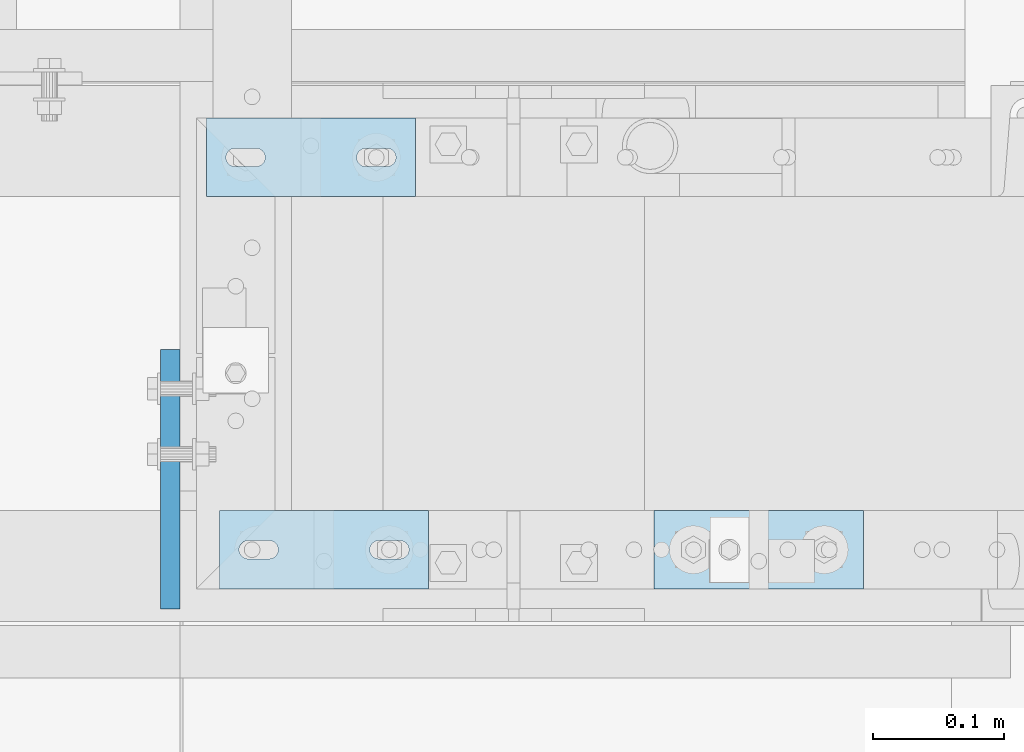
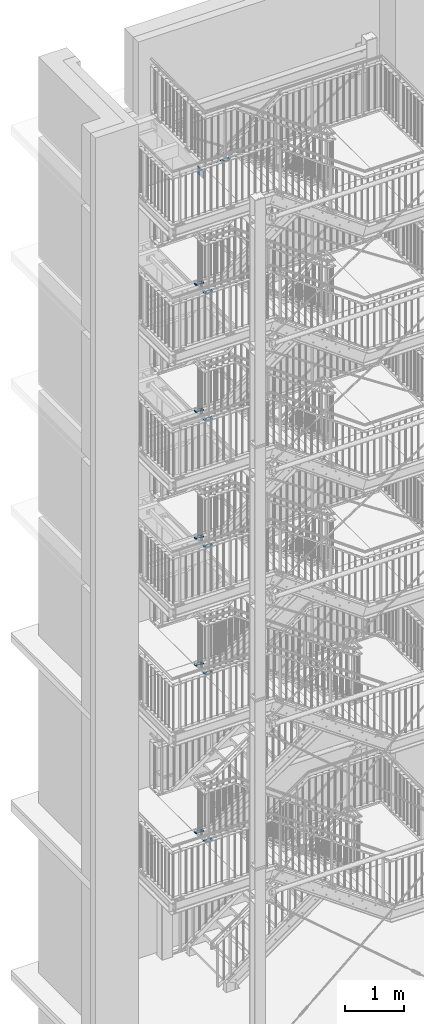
# One storey, part 163 of 831: 12 plates, 26 openings.
"""IFC2X3 building model written with IfcOpenShell, lengths in millimetres."""

from ifc_helpers import new_model, entity, si_unit, converted_unit, point, frame, frame_2d, origin, origin_with_axes, place, context, project, spatial, polyline, circle_curve, line_curve, trimmed, segment, composite_curve, circle, outline, extrude, material, layer, layer_set, element, save


model = new_model("IFC2X3")

# Units and contexts
model_context = context("Model", 3, precision=1e-09, world=origin_with_axes())
ifc_project = project(units=[si_unit("LENGTHUNIT", "METRE", prefix="MILLI"), si_unit("AREAUNIT", "SQUARE_METRE"), si_unit("VOLUMEUNIT", "CUBIC_METRE"), converted_unit("PLANEANGLEUNIT", "DEGREE", entity("IfcPlaneAngleMeasure", 0.01745329), si_unit("PLANEANGLEUNIT", "RADIAN"), dimensions=[0, 0, 0, 0, 0, 0, 0])], contexts=[model_context])

# Site, building, storey
site_placement = place(None, origin_with_axes())
site = spatial("IfcSite", under=ifc_project, at=site_placement, Name="Site", CompositionType="ELEMENT")
building_placement = place(site_placement, origin_with_axes())
building = spatial("IfcBuilding", under=site, at=building_placement, Name="Struktur 1", CompositionType="ELEMENT")
storey_placement = place(building_placement, origin_with_axes())
storey = spatial("IfcBuildingStorey", under=building, at=storey_placement, Name="Default Storey", CompositionType="ELEMENT", Elevation=0.0)

# Plate, openings
ifc_material = material(Name="S235JR")
ifc_layer_1 = layer(ifc_material, 15.0)
ifc_layer_set_1 = layer_set([ifc_layer_1], Name="S235JR")
plate_1_placement = place(None, frame((4601.713402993, 5845.536971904, 17714.000000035), z_axis=(1.0, 0.0, 0.0), x_axis=(0.0, 1.0, 0.0)))
plate_1 = element("IfcPlate", 1, at=plate_1_placement, inside=storey, material=ifc_layer_set_1, Name="-", ObjectType="-", context=model_context, shape_type="SweptSolid", body=[
    extrude(outline(polyline([(-99.3, -75.0), (99.3, -75.0), (99.3, 75.0), (-99.3, 75.0), (-99.3, -75.0)])), origin_with_axes(), (0.0, 0.0, -1.0), 15.0),
])
opening_1_placement = place(plate_1_placement, frame((62.299, 50.000000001, 0.5), z_axis=(0.0, 0.0, 1.0), x_axis=(1.0, 0.0, 0.0)))
element("IfcOpeningElement", 2, at=opening_1_placement, cuts=plate_1, ObjectType="Opening", context=model_context, shape_type="SweptSolid", body=[
    extrude(circle(Radius=7.001, at=frame_2d((7.001, 0.0), x_axis=(1.0, 0.0))), origin(), (0.0, 0.0, -1.0), 16.0),
])
opening_2_placement = place(plate_1_placement, frame((12.299, 50.000000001, 0.5), z_axis=(0.0, 0.0, 1.0), x_axis=(1.0, 0.0, 0.0)))
element("IfcOpeningElement", 3, at=opening_2_placement, cuts=plate_1, ObjectType="Opening", context=model_context, shape_type="SweptSolid", body=[
    extrude(circle(Radius=7.001, at=frame_2d((7.001, 0.0), x_axis=(1.0, 0.0))), origin(), (0.0, 0.0, -1.0), 16.0),
])
opening_3_placement = place(plate_1_placement, frame((62.299, -49.999999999, 0.5), z_axis=(0.0, 0.0, 1.0), x_axis=(1.0, 0.0, 0.0)))
element("IfcOpeningElement", 4, at=opening_3_placement, cuts=plate_1, ObjectType="Opening", context=model_context, shape_type="SweptSolid", body=[
    extrude(circle(Radius=7.001, at=frame_2d((7.001, 0.0), x_axis=(1.0, 0.0))), origin(), (0.0, 0.0, -1.0), 16.0),
])
opening_4_placement = place(plate_1_placement, frame((12.299, -49.999999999, 0.5), z_axis=(0.0, 0.0, 1.0), x_axis=(1.0, 0.0, 0.0)))
element("IfcOpeningElement", 5, at=opening_4_placement, cuts=plate_1, ObjectType="Opening", context=model_context, shape_type="SweptSolid", body=[
    extrude(circle(Radius=7.001, at=frame_2d((7.001, 0.0), x_axis=(1.0, 0.0))), origin(), (0.0, 0.0, -1.0), 16.0),
])

ifc_layer_2 = layer(ifc_material, 20.0)
ifc_layer_set_2 = layer_set([ifc_layer_2], Name="S235JR")
plate_2_placement = place(None, frame((4781.713402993, 6121.736971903, 3847.0), z_axis=(0.0, 0.0, 1.0), x_axis=(-1.0, 0.0, 0.0)))
plate_2 = element("IfcPlate", 6, at=plate_2_placement, inside=storey, material=ifc_layer_set_2, Name="Plate#500", ObjectType="Plate#500", context=model_context, shape_type="SweptSolid", body=[
    extrude(outline(polyline([(0.0, 0.0), (160.0, 0.0), (160.0, 60.0), (0.0, 60.0), (0.0, 0.0)])), origin_with_axes(), (0.0, 0.0, 1.0), 20.0),
])
opening_5_placement = place(plate_2_placement, frame((38.0, 37.001, 20.5), z_axis=(0.0, 0.0, 1.0), x_axis=(-1.0, 0.0, 0.0)))
element("IfcOpeningElement", 7, at=opening_5_placement, cuts=plate_2, ObjectType="Opening", context=model_context, shape_type="SweptSolid", body=[
    extrude(outline(composite_curve([segment(trimmed(line_curve((0.0, 0.0), (1.0, 0.0), 16.0), [point((0.0, 0.0))], [point((16.0, 0.0))], True, "CARTESIAN"), True, "CONTINUOUS"), segment(trimmed(circle_curve(frame_2d((16.0, 7.001), x_axis=(1.0, 0.0)), 7.001), [point((16.0, 0.0))], [point((16.0, 14.002))], True, "CARTESIAN"), True, "CONTINUOUS"), segment(trimmed(line_curve((16.0, 14.002), (-1.0, 0.0), 16.0), [point((16.0, 14.002))], [point((0.0, 14.002))], True, "CARTESIAN"), True, "CONTINUOUS"), segment(trimmed(circle_curve(frame_2d((0.0, 7.001), x_axis=(1.0, 0.0)), 7.001), [point((0.0, 14.002))], [point((0.0, 0.0))], True, "CARTESIAN"), True, "CONTINUOUS")], self_intersect=False)), origin(), (0.0, 0.0, -1.0), 21.0),
])
opening_6_placement = place(plate_2_placement, frame((138.0, 37.001, 20.5), z_axis=(0.0, 0.0, 1.0), x_axis=(-1.0, 0.0, 0.0)))
element("IfcOpeningElement", 8, at=opening_6_placement, cuts=plate_2, ObjectType="Opening", context=model_context, shape_type="SweptSolid", body=[
    extrude(outline(composite_curve([segment(trimmed(line_curve((0.0, 0.0), (1.0, 0.0), 16.0), [point((0.0, 0.0))], [point((16.0, 0.0))], True, "CARTESIAN"), True, "CONTINUOUS"), segment(trimmed(circle_curve(frame_2d((16.0, 7.001), x_axis=(1.0, 0.0)), 7.001), [point((16.0, 0.0))], [point((16.0, 14.002))], True, "CARTESIAN"), True, "CONTINUOUS"), segment(trimmed(line_curve((16.0, 14.002), (-1.0, 0.0), 16.0), [point((16.0, 14.002))], [point((0.0, 14.002))], True, "CARTESIAN"), True, "CONTINUOUS"), segment(trimmed(circle_curve(frame_2d((0.0, 7.001), x_axis=(1.0, 0.0)), 7.001), [point((0.0, 14.002))], [point((0.0, 0.0))], True, "CARTESIAN"), True, "CONTINUOUS")], self_intersect=False)), origin(), (0.0, 0.0, -1.0), 21.0),
])

plate_3_placement = place(None, frame((4781.713402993, 6121.736971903, 7320.0), z_axis=(0.0, 0.0, 1.0), x_axis=(-1.0, 0.0, 0.0)))
plate_3 = element("IfcPlate", 9, at=plate_3_placement, inside=storey, material=ifc_layer_set_2, Name="Plate#500", ObjectType="Plate#500", context=model_context, shape_type="SweptSolid", body=[
    extrude(outline(polyline([(0.0, 0.0), (160.0, 0.0), (160.0, 60.0), (0.0, 60.0), (0.0, 0.0)])), origin_with_axes(), (0.0, 0.0, 1.0), 20.0),
])
opening_7_placement = place(plate_3_placement, frame((38.0, 37.001, 20.5), z_axis=(0.0, 0.0, 1.0), x_axis=(-1.0, 0.0, 0.0)))
element("IfcOpeningElement", 10, at=opening_7_placement, cuts=plate_3, ObjectType="Opening", context=model_context, shape_type="SweptSolid", body=[
    extrude(outline(composite_curve([segment(trimmed(line_curve((0.0, 0.0), (1.0, 0.0), 16.0), [point((0.0, 0.0))], [point((16.0, 0.0))], True, "CARTESIAN"), True, "CONTINUOUS"), segment(trimmed(circle_curve(frame_2d((16.0, 7.001), x_axis=(1.0, 0.0)), 7.001), [point((16.0, 0.0))], [point((16.0, 14.002))], True, "CARTESIAN"), True, "CONTINUOUS"), segment(trimmed(line_curve((16.0, 14.002), (-1.0, 0.0), 16.0), [point((16.0, 14.002))], [point((0.0, 14.002))], True, "CARTESIAN"), True, "CONTINUOUS"), segment(trimmed(circle_curve(frame_2d((0.0, 7.001), x_axis=(1.0, 0.0)), 7.001), [point((0.0, 14.002))], [point((0.0, 0.0))], True, "CARTESIAN"), True, "CONTINUOUS")], self_intersect=False)), origin(), (0.0, 0.0, -1.0), 21.0),
])
opening_8_placement = place(plate_3_placement, frame((138.0, 37.001, 20.5), z_axis=(0.0, 0.0, 1.0), x_axis=(-1.0, 0.0, 0.0)))
element("IfcOpeningElement", 11, at=opening_8_placement, cuts=plate_3, ObjectType="Opening", context=model_context, shape_type="SweptSolid", body=[
    extrude(outline(composite_curve([segment(trimmed(line_curve((0.0, 0.0), (1.0, 0.0), 16.0), [point((0.0, 0.0))], [point((16.0, 0.0))], True, "CARTESIAN"), True, "CONTINUOUS"), segment(trimmed(circle_curve(frame_2d((16.0, 7.001), x_axis=(1.0, 0.0)), 7.001), [point((16.0, 0.0))], [point((16.0, 14.002))], True, "CARTESIAN"), True, "CONTINUOUS"), segment(trimmed(line_curve((16.0, 14.002), (-1.0, 0.0), 16.0), [point((16.0, 14.002))], [point((0.0, 14.002))], True, "CARTESIAN"), True, "CONTINUOUS"), segment(trimmed(circle_curve(frame_2d((0.0, 7.001), x_axis=(1.0, 0.0)), 7.001), [point((0.0, 14.002))], [point((0.0, 0.0))], True, "CARTESIAN"), True, "CONTINUOUS")], self_intersect=False)), origin(), (0.0, 0.0, -1.0), 21.0),
])

plate_4_placement = place(None, frame((4781.713402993, 6121.736971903, 9952.0), z_axis=(0.0, 0.0, 1.0), x_axis=(-1.0, 0.0, 0.0)))
plate_4 = element("IfcPlate", 12, at=plate_4_placement, inside=storey, material=ifc_layer_set_2, Name="Plate#500", ObjectType="Plate#500", context=model_context, shape_type="SweptSolid", body=[
    extrude(outline(polyline([(0.0, 0.0), (160.0, 0.0), (160.0, 60.0), (0.0, 60.0), (0.0, 0.0)])), origin_with_axes(), (0.0, 0.0, 1.0), 20.0),
])
opening_9_placement = place(plate_4_placement, frame((38.0, 37.001, 20.5), z_axis=(0.0, 0.0, 1.0), x_axis=(-1.0, 0.0, 0.0)))
element("IfcOpeningElement", 13, at=opening_9_placement, cuts=plate_4, ObjectType="Opening", context=model_context, shape_type="SweptSolid", body=[
    extrude(outline(composite_curve([segment(trimmed(line_curve((0.0, 0.0), (1.0, 0.0), 16.0), [point((0.0, 0.0))], [point((16.0, 0.0))], True, "CARTESIAN"), True, "CONTINUOUS"), segment(trimmed(circle_curve(frame_2d((16.0, 7.001), x_axis=(1.0, 0.0)), 7.001), [point((16.0, 0.0))], [point((16.0, 14.002))], True, "CARTESIAN"), True, "CONTINUOUS"), segment(trimmed(line_curve((16.0, 14.002), (-1.0, 0.0), 16.0), [point((16.0, 14.002))], [point((0.0, 14.002))], True, "CARTESIAN"), True, "CONTINUOUS"), segment(trimmed(circle_curve(frame_2d((0.0, 7.001), x_axis=(1.0, 0.0)), 7.001), [point((0.0, 14.002))], [point((0.0, 0.0))], True, "CARTESIAN"), True, "CONTINUOUS")], self_intersect=False)), origin(), (0.0, 0.0, -1.0), 21.0),
])
opening_10_placement = place(plate_4_placement, frame((138.0, 37.001, 20.5), z_axis=(0.0, 0.0, 1.0), x_axis=(-1.0, 0.0, 0.0)))
element("IfcOpeningElement", 14, at=opening_10_placement, cuts=plate_4, ObjectType="Opening", context=model_context, shape_type="SweptSolid", body=[
    extrude(outline(composite_curve([segment(trimmed(line_curve((0.0, 0.0), (1.0, 0.0), 16.0), [point((0.0, 0.0))], [point((16.0, 0.0))], True, "CARTESIAN"), True, "CONTINUOUS"), segment(trimmed(circle_curve(frame_2d((16.0, 7.001), x_axis=(1.0, 0.0)), 7.001), [point((16.0, 0.0))], [point((16.0, 14.002))], True, "CARTESIAN"), True, "CONTINUOUS"), segment(trimmed(line_curve((16.0, 14.002), (-1.0, 0.0), 16.0), [point((16.0, 14.002))], [point((0.0, 14.002))], True, "CARTESIAN"), True, "CONTINUOUS"), segment(trimmed(circle_curve(frame_2d((0.0, 7.001), x_axis=(1.0, 0.0)), 7.001), [point((0.0, 14.002))], [point((0.0, 0.0))], True, "CARTESIAN"), True, "CONTINUOUS")], self_intersect=False)), origin(), (0.0, 0.0, -1.0), 21.0),
])

plate_5_placement = place(None, frame((4781.713402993, 6121.736971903, 12579.0), z_axis=(0.0, 0.0, 1.0), x_axis=(-1.0, 0.0, 0.0)))
plate_5 = element("IfcPlate", 15, at=plate_5_placement, inside=storey, material=ifc_layer_set_2, Name="Plate#500", ObjectType="Plate#500", context=model_context, shape_type="SweptSolid", body=[
    extrude(outline(polyline([(0.0, 0.0), (160.0, 0.0), (160.0, 60.0), (0.0, 60.0), (0.0, 0.0)])), origin_with_axes(), (0.0, 0.0, 1.0), 20.0),
])
opening_11_placement = place(plate_5_placement, frame((38.0, 37.001, 20.5), z_axis=(0.0, 0.0, 1.0), x_axis=(-1.0, 0.0, 0.0)))
element("IfcOpeningElement", 16, at=opening_11_placement, cuts=plate_5, ObjectType="Opening", context=model_context, shape_type="SweptSolid", body=[
    extrude(outline(composite_curve([segment(trimmed(line_curve((0.0, 0.0), (1.0, 0.0), 16.0), [point((0.0, 0.0))], [point((16.0, 0.0))], True, "CARTESIAN"), True, "CONTINUOUS"), segment(trimmed(circle_curve(frame_2d((16.0, 7.001), x_axis=(1.0, 0.0)), 7.001), [point((16.0, 0.0))], [point((16.0, 14.002))], True, "CARTESIAN"), True, "CONTINUOUS"), segment(trimmed(line_curve((16.0, 14.002), (-1.0, 0.0), 16.0), [point((16.0, 14.002))], [point((0.0, 14.002))], True, "CARTESIAN"), True, "CONTINUOUS"), segment(trimmed(circle_curve(frame_2d((0.0, 7.001), x_axis=(1.0, 0.0)), 7.001), [point((0.0, 14.002))], [point((0.0, 0.0))], True, "CARTESIAN"), True, "CONTINUOUS")], self_intersect=False)), origin(), (0.0, 0.0, -1.0), 21.0),
])
opening_12_placement = place(plate_5_placement, frame((138.0, 37.001, 20.5), z_axis=(0.0, 0.0, 1.0), x_axis=(-1.0, 0.0, 0.0)))
element("IfcOpeningElement", 17, at=opening_12_placement, cuts=plate_5, ObjectType="Opening", context=model_context, shape_type="SweptSolid", body=[
    extrude(outline(composite_curve([segment(trimmed(line_curve((0.0, 0.0), (1.0, 0.0), 16.0), [point((0.0, 0.0))], [point((16.0, 0.0))], True, "CARTESIAN"), True, "CONTINUOUS"), segment(trimmed(circle_curve(frame_2d((16.0, 7.001), x_axis=(1.0, 0.0)), 7.001), [point((16.0, 0.0))], [point((16.0, 14.002))], True, "CARTESIAN"), True, "CONTINUOUS"), segment(trimmed(line_curve((16.0, 14.002), (-1.0, 0.0), 16.0), [point((16.0, 14.002))], [point((0.0, 14.002))], True, "CARTESIAN"), True, "CONTINUOUS"), segment(trimmed(circle_curve(frame_2d((0.0, 7.001), x_axis=(1.0, 0.0)), 7.001), [point((0.0, 14.002))], [point((0.0, 0.0))], True, "CARTESIAN"), True, "CONTINUOUS")], self_intersect=False)), origin(), (0.0, 0.0, -1.0), 21.0),
])

plate_6_placement = place(None, frame((4781.713402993, 6121.736971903, 15214.0), z_axis=(0.0, 0.0, 1.0), x_axis=(-1.0, 0.0, 0.0)))
plate_6 = element("IfcPlate", 18, at=plate_6_placement, inside=storey, material=ifc_layer_set_2, Name="Plate#500", ObjectType="Plate#500", context=model_context, shape_type="SweptSolid", body=[
    extrude(outline(polyline([(0.0, 0.0), (160.0, 0.0), (160.0, 60.0), (0.0, 60.0), (0.0, 0.0)])), origin_with_axes(), (0.0, 0.0, 1.0), 20.0),
])
opening_13_placement = place(plate_6_placement, frame((38.0, 37.001, 20.5), z_axis=(0.0, 0.0, 1.0), x_axis=(-1.0, 0.0, 0.0)))
element("IfcOpeningElement", 19, at=opening_13_placement, cuts=plate_6, ObjectType="Opening", context=model_context, shape_type="SweptSolid", body=[
    extrude(outline(composite_curve([segment(trimmed(line_curve((0.0, 0.0), (1.0, 0.0), 16.0), [point((0.0, 0.0))], [point((16.0, 0.0))], True, "CARTESIAN"), True, "CONTINUOUS"), segment(trimmed(circle_curve(frame_2d((16.0, 7.001), x_axis=(1.0, 0.0)), 7.001), [point((16.0, 0.0))], [point((16.0, 14.002))], True, "CARTESIAN"), True, "CONTINUOUS"), segment(trimmed(line_curve((16.0, 14.002), (-1.0, 0.0), 16.0), [point((16.0, 14.002))], [point((0.0, 14.002))], True, "CARTESIAN"), True, "CONTINUOUS"), segment(trimmed(circle_curve(frame_2d((0.0, 7.001), x_axis=(1.0, 0.0)), 7.001), [point((0.0, 14.002))], [point((0.0, 0.0))], True, "CARTESIAN"), True, "CONTINUOUS")], self_intersect=False)), origin(), (0.0, 0.0, -1.0), 21.0),
])
opening_14_placement = place(plate_6_placement, frame((138.0, 37.001, 20.5), z_axis=(0.0, 0.0, 1.0), x_axis=(-1.0, 0.0, 0.0)))
element("IfcOpeningElement", 20, at=opening_14_placement, cuts=plate_6, ObjectType="Opening", context=model_context, shape_type="SweptSolid", body=[
    extrude(outline(composite_curve([segment(trimmed(line_curve((0.0, 0.0), (1.0, 0.0), 16.0), [point((0.0, 0.0))], [point((16.0, 0.0))], True, "CARTESIAN"), True, "CONTINUOUS"), segment(trimmed(circle_curve(frame_2d((16.0, 7.001), x_axis=(1.0, 0.0)), 7.001), [point((16.0, 0.0))], [point((16.0, 14.002))], True, "CARTESIAN"), True, "CONTINUOUS"), segment(trimmed(line_curve((16.0, 14.002), (-1.0, 0.0), 16.0), [point((16.0, 14.002))], [point((0.0, 14.002))], True, "CARTESIAN"), True, "CONTINUOUS"), segment(trimmed(circle_curve(frame_2d((0.0, 7.001), x_axis=(1.0, 0.0)), 7.001), [point((0.0, 14.002))], [point((0.0, 0.0))], True, "CARTESIAN"), True, "CONTINUOUS")], self_intersect=False)), origin(), (0.0, 0.0, -1.0), 21.0),
])

plate_7_placement = place(None, frame((4631.713402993, 5761.736971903, 3847.0), z_axis=(0.0, 0.0, 1.0), x_axis=(1.0, 0.0, 0.0)))
plate_7 = element("IfcPlate", 21, at=plate_7_placement, inside=storey, material=ifc_layer_set_2, Name="Plate#503", ObjectType="Plate#503", context=model_context, shape_type="SweptSolid", body=[
    extrude(outline(polyline([(0.0, 0.0), (160.0, 0.0), (160.0, 60.0), (0.0, 60.0), (0.0, 0.0)])), origin_with_axes(), (0.0, 0.0, 1.0), 20.0),
])
opening_15_placement = place(plate_7_placement, frame((38.0, 37.001, 20.5), z_axis=(0.0, 0.0, 1.0), x_axis=(-1.0, 0.0, 0.0)))
element("IfcOpeningElement", 22, at=opening_15_placement, cuts=plate_7, ObjectType="Opening", context=model_context, shape_type="SweptSolid", body=[
    extrude(outline(composite_curve([segment(trimmed(line_curve((0.0, 0.0), (1.0, 0.0), 16.0), [point((0.0, 0.0))], [point((16.0, 0.0))], True, "CARTESIAN"), True, "CONTINUOUS"), segment(trimmed(circle_curve(frame_2d((16.0, 7.001), x_axis=(1.0, 0.0)), 7.001), [point((16.0, 0.0))], [point((16.0, 14.002))], True, "CARTESIAN"), True, "CONTINUOUS"), segment(trimmed(line_curve((16.0, 14.002), (-1.0, 0.0), 16.0), [point((16.0, 14.002))], [point((0.0, 14.002))], True, "CARTESIAN"), True, "CONTINUOUS"), segment(trimmed(circle_curve(frame_2d((0.0, 7.001), x_axis=(1.0, 0.0)), 7.001), [point((0.0, 14.002))], [point((0.0, 0.0))], True, "CARTESIAN"), True, "CONTINUOUS")], self_intersect=False)), origin(), (0.0, 0.0, -1.0), 21.0),
])
opening_16_placement = place(plate_7_placement, frame((138.0, 37.001, 20.5), z_axis=(0.0, 0.0, 1.0), x_axis=(-1.0, 0.0, 0.0)))
element("IfcOpeningElement", 23, at=opening_16_placement, cuts=plate_7, ObjectType="Opening", context=model_context, shape_type="SweptSolid", body=[
    extrude(outline(composite_curve([segment(trimmed(line_curve((0.0, 0.0), (1.0, 0.0), 16.0), [point((0.0, 0.0))], [point((16.0, 0.0))], True, "CARTESIAN"), True, "CONTINUOUS"), segment(trimmed(circle_curve(frame_2d((16.0, 7.001), x_axis=(1.0, 0.0)), 7.001), [point((16.0, 0.0))], [point((16.0, 14.002))], True, "CARTESIAN"), True, "CONTINUOUS"), segment(trimmed(line_curve((16.0, 14.002), (-1.0, 0.0), 16.0), [point((16.0, 14.002))], [point((0.0, 14.002))], True, "CARTESIAN"), True, "CONTINUOUS"), segment(trimmed(circle_curve(frame_2d((0.0, 7.001), x_axis=(1.0, 0.0)), 7.001), [point((0.0, 14.002))], [point((0.0, 0.0))], True, "CARTESIAN"), True, "CONTINUOUS")], self_intersect=False)), origin(), (0.0, 0.0, -1.0), 21.0),
])

plate_8_placement = place(None, frame((4631.713402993, 5761.736971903, 7320.0), z_axis=(0.0, 0.0, 1.0), x_axis=(1.0, 0.0, 0.0)))
plate_8 = element("IfcPlate", 24, at=plate_8_placement, inside=storey, material=ifc_layer_set_2, Name="Plate#503", ObjectType="Plate#503", context=model_context, shape_type="SweptSolid", body=[
    extrude(outline(polyline([(0.0, 0.0), (160.0, 0.0), (160.0, 60.0), (0.0, 60.0), (0.0, 0.0)])), origin_with_axes(), (0.0, 0.0, 1.0), 20.0),
])
opening_17_placement = place(plate_8_placement, frame((38.0, 37.001, 20.5), z_axis=(0.0, 0.0, 1.0), x_axis=(-1.0, 0.0, 0.0)))
element("IfcOpeningElement", 25, at=opening_17_placement, cuts=plate_8, ObjectType="Opening", context=model_context, shape_type="SweptSolid", body=[
    extrude(outline(composite_curve([segment(trimmed(line_curve((0.0, 0.0), (1.0, 0.0), 16.0), [point((0.0, 0.0))], [point((16.0, 0.0))], True, "CARTESIAN"), True, "CONTINUOUS"), segment(trimmed(circle_curve(frame_2d((16.0, 7.001), x_axis=(1.0, 0.0)), 7.001), [point((16.0, 0.0))], [point((16.0, 14.002))], True, "CARTESIAN"), True, "CONTINUOUS"), segment(trimmed(line_curve((16.0, 14.002), (-1.0, 0.0), 16.0), [point((16.0, 14.002))], [point((0.0, 14.002))], True, "CARTESIAN"), True, "CONTINUOUS"), segment(trimmed(circle_curve(frame_2d((0.0, 7.001), x_axis=(1.0, 0.0)), 7.001), [point((0.0, 14.002))], [point((0.0, 0.0))], True, "CARTESIAN"), True, "CONTINUOUS")], self_intersect=False)), origin(), (0.0, 0.0, -1.0), 21.0),
])
opening_18_placement = place(plate_8_placement, frame((138.0, 37.001, 20.5), z_axis=(0.0, 0.0, 1.0), x_axis=(-1.0, 0.0, 0.0)))
element("IfcOpeningElement", 26, at=opening_18_placement, cuts=plate_8, ObjectType="Opening", context=model_context, shape_type="SweptSolid", body=[
    extrude(outline(composite_curve([segment(trimmed(line_curve((0.0, 0.0), (1.0, 0.0), 16.0), [point((0.0, 0.0))], [point((16.0, 0.0))], True, "CARTESIAN"), True, "CONTINUOUS"), segment(trimmed(circle_curve(frame_2d((16.0, 7.001), x_axis=(1.0, 0.0)), 7.001), [point((16.0, 0.0))], [point((16.0, 14.002))], True, "CARTESIAN"), True, "CONTINUOUS"), segment(trimmed(line_curve((16.0, 14.002), (-1.0, 0.0), 16.0), [point((16.0, 14.002))], [point((0.0, 14.002))], True, "CARTESIAN"), True, "CONTINUOUS"), segment(trimmed(circle_curve(frame_2d((0.0, 7.001), x_axis=(1.0, 0.0)), 7.001), [point((0.0, 14.002))], [point((0.0, 0.0))], True, "CARTESIAN"), True, "CONTINUOUS")], self_intersect=False)), origin(), (0.0, 0.0, -1.0), 21.0),
])

plate_9_placement = place(None, frame((4631.713402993, 5761.736971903, 9952.0), z_axis=(0.0, 0.0, 1.0), x_axis=(1.0, 0.0, 0.0)))
plate_9 = element("IfcPlate", 27, at=plate_9_placement, inside=storey, material=ifc_layer_set_2, Name="Plate#502", ObjectType="Plate#502", context=model_context, shape_type="SweptSolid", body=[
    extrude(outline(polyline([(0.0, 0.0), (160.0, 0.0), (160.0, 60.0), (0.0, 60.0), (0.0, 0.0)])), origin_with_axes(), (0.0, 0.0, 1.0), 20.0),
])
opening_19_placement = place(plate_9_placement, frame((38.0, 37.001, 20.5), z_axis=(0.0, 0.0, 1.0), x_axis=(-1.0, 0.0, 0.0)))
element("IfcOpeningElement", 28, at=opening_19_placement, cuts=plate_9, ObjectType="Opening", context=model_context, shape_type="SweptSolid", body=[
    extrude(outline(composite_curve([segment(trimmed(line_curve((0.0, 0.0), (1.0, 0.0), 16.0), [point((0.0, 0.0))], [point((16.0, 0.0))], True, "CARTESIAN"), True, "CONTINUOUS"), segment(trimmed(circle_curve(frame_2d((16.0, 7.001), x_axis=(1.0, 0.0)), 7.001), [point((16.0, 0.0))], [point((16.0, 14.002))], True, "CARTESIAN"), True, "CONTINUOUS"), segment(trimmed(line_curve((16.0, 14.002), (-1.0, 0.0), 16.0), [point((16.0, 14.002))], [point((0.0, 14.002))], True, "CARTESIAN"), True, "CONTINUOUS"), segment(trimmed(circle_curve(frame_2d((0.0, 7.001), x_axis=(1.0, 0.0)), 7.001), [point((0.0, 14.002))], [point((0.0, 0.0))], True, "CARTESIAN"), True, "CONTINUOUS")], self_intersect=False)), origin(), (0.0, 0.0, -1.0), 21.0),
])
opening_20_placement = place(plate_9_placement, frame((138.0, 37.001, 20.5), z_axis=(0.0, 0.0, 1.0), x_axis=(-1.0, 0.0, 0.0)))
element("IfcOpeningElement", 29, at=opening_20_placement, cuts=plate_9, ObjectType="Opening", context=model_context, shape_type="SweptSolid", body=[
    extrude(outline(composite_curve([segment(trimmed(line_curve((0.0, 0.0), (1.0, 0.0), 16.0), [point((0.0, 0.0))], [point((16.0, 0.0))], True, "CARTESIAN"), True, "CONTINUOUS"), segment(trimmed(circle_curve(frame_2d((16.0, 7.001), x_axis=(1.0, 0.0)), 7.001), [point((16.0, 0.0))], [point((16.0, 14.002))], True, "CARTESIAN"), True, "CONTINUOUS"), segment(trimmed(line_curve((16.0, 14.002), (-1.0, 0.0), 16.0), [point((16.0, 14.002))], [point((0.0, 14.002))], True, "CARTESIAN"), True, "CONTINUOUS"), segment(trimmed(circle_curve(frame_2d((0.0, 7.001), x_axis=(1.0, 0.0)), 7.001), [point((0.0, 14.002))], [point((0.0, 0.0))], True, "CARTESIAN"), True, "CONTINUOUS")], self_intersect=False)), origin(), (0.0, 0.0, -1.0), 21.0),
])

plate_10_placement = place(None, frame((4631.713402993, 5761.736971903, 12579.0), z_axis=(0.0, 0.0, 1.0), x_axis=(1.0, 0.0, 0.0)))
plate_10 = element("IfcPlate", 30, at=plate_10_placement, inside=storey, material=ifc_layer_set_2, Name="Plate#502", ObjectType="Plate#502", context=model_context, shape_type="SweptSolid", body=[
    extrude(outline(polyline([(0.0, 0.0), (160.0, 0.0), (160.0, 60.0), (0.0, 60.0), (0.0, 0.0)])), origin_with_axes(), (0.0, 0.0, 1.0), 20.0),
])
opening_21_placement = place(plate_10_placement, frame((38.0, 37.001, 20.5), z_axis=(0.0, 0.0, 1.0), x_axis=(-1.0, 0.0, 0.0)))
element("IfcOpeningElement", 31, at=opening_21_placement, cuts=plate_10, ObjectType="Opening", context=model_context, shape_type="SweptSolid", body=[
    extrude(outline(composite_curve([segment(trimmed(line_curve((0.0, 0.0), (1.0, 0.0), 16.0), [point((0.0, 0.0))], [point((16.0, 0.0))], True, "CARTESIAN"), True, "CONTINUOUS"), segment(trimmed(circle_curve(frame_2d((16.0, 7.001), x_axis=(1.0, 0.0)), 7.001), [point((16.0, 0.0))], [point((16.0, 14.002))], True, "CARTESIAN"), True, "CONTINUOUS"), segment(trimmed(line_curve((16.0, 14.002), (-1.0, 0.0), 16.0), [point((16.0, 14.002))], [point((0.0, 14.002))], True, "CARTESIAN"), True, "CONTINUOUS"), segment(trimmed(circle_curve(frame_2d((0.0, 7.001), x_axis=(1.0, 0.0)), 7.001), [point((0.0, 14.002))], [point((0.0, 0.0))], True, "CARTESIAN"), True, "CONTINUOUS")], self_intersect=False)), origin(), (0.0, 0.0, -1.0), 21.0),
])
opening_22_placement = place(plate_10_placement, frame((138.0, 37.001, 20.5), z_axis=(0.0, 0.0, 1.0), x_axis=(-1.0, 0.0, 0.0)))
element("IfcOpeningElement", 32, at=opening_22_placement, cuts=plate_10, ObjectType="Opening", context=model_context, shape_type="SweptSolid", body=[
    extrude(outline(composite_curve([segment(trimmed(line_curve((0.0, 0.0), (1.0, 0.0), 16.0), [point((0.0, 0.0))], [point((16.0, 0.0))], True, "CARTESIAN"), True, "CONTINUOUS"), segment(trimmed(circle_curve(frame_2d((16.0, 7.001), x_axis=(1.0, 0.0)), 7.001), [point((16.0, 0.0))], [point((16.0, 14.002))], True, "CARTESIAN"), True, "CONTINUOUS"), segment(trimmed(line_curve((16.0, 14.002), (-1.0, 0.0), 16.0), [point((16.0, 14.002))], [point((0.0, 14.002))], True, "CARTESIAN"), True, "CONTINUOUS"), segment(trimmed(circle_curve(frame_2d((0.0, 7.001), x_axis=(1.0, 0.0)), 7.001), [point((0.0, 14.002))], [point((0.0, 0.0))], True, "CARTESIAN"), True, "CONTINUOUS")], self_intersect=False)), origin(), (0.0, 0.0, -1.0), 21.0),
])

plate_11_placement = place(None, frame((4631.713402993, 5761.736971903, 15214.0), z_axis=(0.0, 0.0, 1.0), x_axis=(1.0, 0.0, 0.0)))
plate_11 = element("IfcPlate", 33, at=plate_11_placement, inside=storey, material=ifc_layer_set_2, Name="Plate#502", ObjectType="Plate#502", context=model_context, shape_type="SweptSolid", body=[
    extrude(outline(polyline([(0.0, 0.0), (160.0, 0.0), (160.0, 60.0), (0.0, 60.0), (0.0, 0.0)])), origin_with_axes(), (0.0, 0.0, 1.0), 20.0),
])
opening_23_placement = place(plate_11_placement, frame((38.0, 37.001, 20.5), z_axis=(0.0, 0.0, 1.0), x_axis=(-1.0, 0.0, 0.0)))
element("IfcOpeningElement", 34, at=opening_23_placement, cuts=plate_11, ObjectType="Opening", context=model_context, shape_type="SweptSolid", body=[
    extrude(outline(composite_curve([segment(trimmed(line_curve((0.0, 0.0), (1.0, 0.0), 16.0), [point((0.0, 0.0))], [point((16.0, 0.0))], True, "CARTESIAN"), True, "CONTINUOUS"), segment(trimmed(circle_curve(frame_2d((16.0, 7.001), x_axis=(1.0, 0.0)), 7.001), [point((16.0, 0.0))], [point((16.0, 14.002))], True, "CARTESIAN"), True, "CONTINUOUS"), segment(trimmed(line_curve((16.0, 14.002), (-1.0, 0.0), 16.0), [point((16.0, 14.002))], [point((0.0, 14.002))], True, "CARTESIAN"), True, "CONTINUOUS"), segment(trimmed(circle_curve(frame_2d((0.0, 7.001), x_axis=(1.0, 0.0)), 7.001), [point((0.0, 14.002))], [point((0.0, 0.0))], True, "CARTESIAN"), True, "CONTINUOUS")], self_intersect=False)), origin(), (0.0, 0.0, -1.0), 21.0),
])
opening_24_placement = place(plate_11_placement, frame((138.0, 37.001, 20.5), z_axis=(0.0, 0.0, 1.0), x_axis=(-1.0, 0.0, 0.0)))
element("IfcOpeningElement", 35, at=opening_24_placement, cuts=plate_11, ObjectType="Opening", context=model_context, shape_type="SweptSolid", body=[
    extrude(outline(composite_curve([segment(trimmed(line_curve((0.0, 0.0), (1.0, 0.0), 16.0), [point((0.0, 0.0))], [point((16.0, 0.0))], True, "CARTESIAN"), True, "CONTINUOUS"), segment(trimmed(circle_curve(frame_2d((16.0, 7.001), x_axis=(1.0, 0.0)), 7.001), [point((16.0, 0.0))], [point((16.0, 14.002))], True, "CARTESIAN"), True, "CONTINUOUS"), segment(trimmed(line_curve((16.0, 14.002), (-1.0, 0.0), 16.0), [point((16.0, 14.002))], [point((0.0, 14.002))], True, "CARTESIAN"), True, "CONTINUOUS"), segment(trimmed(circle_curve(frame_2d((0.0, 7.001), x_axis=(1.0, 0.0)), 7.001), [point((0.0, 14.002))], [point((0.0, 0.0))], True, "CARTESIAN"), True, "CONTINUOUS")], self_intersect=False)), origin(), (0.0, 0.0, -1.0), 21.0),
])

plate_12_placement = place(None, frame((4964.213902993, 5761.736971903, 17834.0), z_axis=(0.0, 0.0, 1.0), x_axis=(1.0, 0.0, 0.0)))
plate_12 = element("IfcPlate", 36, at=plate_12_placement, inside=storey, material=ifc_layer_set_2, Name="Plate#502", ObjectType="Plate#502", context=model_context, shape_type="SweptSolid", body=[
    extrude(outline(polyline([(0.0, 0.0), (160.0, 0.0), (160.0, 60.0), (0.0, 60.0), (0.0, 0.0)])), origin_with_axes(), (0.0, 0.0, 1.0), 20.0),
])
opening_25_placement = place(plate_12_placement, frame((38.0, 37.001, 20.5), z_axis=(0.0, 0.0, 1.0), x_axis=(-1.0, 0.0, 0.0)))
element("IfcOpeningElement", 37, at=opening_25_placement, cuts=plate_12, ObjectType="Opening", context=model_context, shape_type="SweptSolid", body=[
    extrude(outline(composite_curve([segment(trimmed(line_curve((0.0, 0.0), (1.0, 0.0), 16.0), [point((0.0, 0.0))], [point((16.0, 0.0))], True, "CARTESIAN"), True, "CONTINUOUS"), segment(trimmed(circle_curve(frame_2d((16.0, 7.001), x_axis=(1.0, 0.0)), 7.001), [point((16.0, 0.0))], [point((16.0, 14.002))], True, "CARTESIAN"), True, "CONTINUOUS"), segment(trimmed(line_curve((16.0, 14.002), (-1.0, 0.0), 16.0), [point((16.0, 14.002))], [point((0.0, 14.002))], True, "CARTESIAN"), True, "CONTINUOUS"), segment(trimmed(circle_curve(frame_2d((0.0, 7.001), x_axis=(1.0, 0.0)), 7.001), [point((0.0, 14.002))], [point((0.0, 0.0))], True, "CARTESIAN"), True, "CONTINUOUS")], self_intersect=False)), origin(), (0.0, 0.0, -1.0), 21.0),
])
opening_26_placement = place(plate_12_placement, frame((138.0, 37.001, 20.5), z_axis=(0.0, 0.0, 1.0), x_axis=(-1.0, 0.0, 0.0)))
element("IfcOpeningElement", 38, at=opening_26_placement, cuts=plate_12, ObjectType="Opening", context=model_context, shape_type="SweptSolid", body=[
    extrude(outline(composite_curve([segment(trimmed(line_curve((0.0, 0.0), (1.0, 0.0), 16.0), [point((0.0, 0.0))], [point((16.0, 0.0))], True, "CARTESIAN"), True, "CONTINUOUS"), segment(trimmed(circle_curve(frame_2d((16.0, 7.001), x_axis=(1.0, 0.0)), 7.001), [point((16.0, 0.0))], [point((16.0, 14.002))], True, "CARTESIAN"), True, "CONTINUOUS"), segment(trimmed(line_curve((16.0, 14.002), (-1.0, 0.0), 16.0), [point((16.0, 14.002))], [point((0.0, 14.002))], True, "CARTESIAN"), True, "CONTINUOUS"), segment(trimmed(circle_curve(frame_2d((0.0, 7.001), x_axis=(1.0, 0.0)), 7.001), [point((0.0, 14.002))], [point((0.0, 0.0))], True, "CARTESIAN"), True, "CONTINUOUS")], self_intersect=False)), origin(), (0.0, 0.0, -1.0), 21.0),
])

save(model, "model.ifc")
